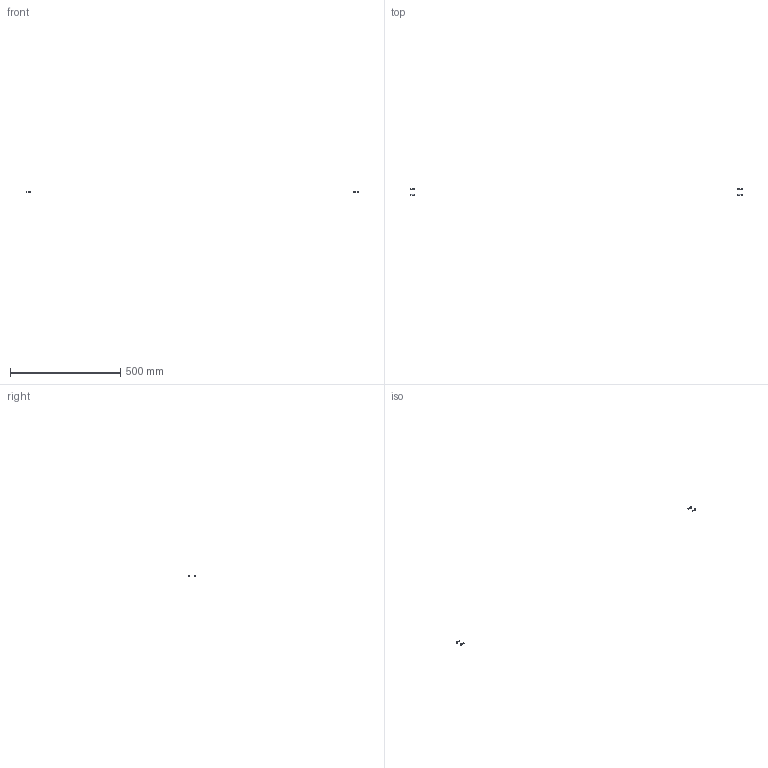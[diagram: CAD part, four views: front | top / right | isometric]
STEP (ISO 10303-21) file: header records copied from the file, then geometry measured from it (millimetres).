
FILE_DESCRIPTION(/* description */ (''),/* implementation_level */ '2;1');
FILE_NAME(/* name */ 'Y-BC48~1',/* time_stamp */ '2014-02-14T19:38:44+01:00',/* author */ (''),/* organization */ (''),/* preprocessor_version */ 'ST-DEVELOPER v14',/* originating_system */ '',/* authorisation */ '');
FILE_SCHEMA (('AUTOMOTIVE_DESIGN'));
Length unit declared in the file: millimetre
Products named in the file (2): Document; screw DIN912-like, M4x16
Assembly tree (2 placements, depth 2):
  Document
    screw DIN912-like, M4x16  x2
Bounding box: 1507 x 33 x 6.98 mm (x, y, z)
Volume: 1347.1 mm3; surface area: 1514.2 mm2
Topology: 4 solids, 4 shells, 100 faces, 224 edges, 132 vertices
Faces by surface type: plane 60, bspline 40
Entity records: 4125 total; most frequent: CARTESIAN_POINT 1889, B_SPLINE_CURVE_WITH_KNOTS 378, ORIENTED_EDGE 324, PCURVE 324, DEFINITIONAL_REPRESENTATION 324, SURFACE_CURVE 162, EDGE_CURVE 162, VERTEX_POINT 99
